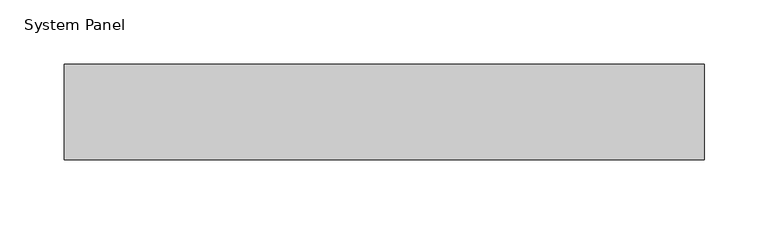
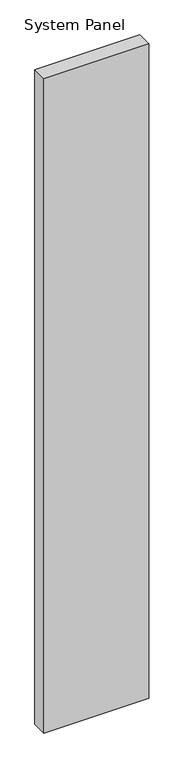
"""IFC4 building model written with IfcOpenShell, lengths in millimetres: plate geometry, System Panel : MetecnoPanel 75mm Vertical - Plain Astro - PIR."""

from ifc_helpers import new_model, si_unit, origin, origin_with_axes, place, context, project, spatial, polyline, outline, extrude, source, transform, mapped, element, save


def system_panel_dae39a37(model_context):
    return source(origin(), model_context, "Body", "SweptSolid", [
        extrude(outline(polyline([(250.0, 0.0), (-250.0, 0.0), (-250.0, 75.0), (250.0, 75.0), (250.0, 0.0)])), origin_with_axes(), (0.0, 0.0, 1.0), 3300.0),
    ])


if __name__ == "__main__":
    model = new_model("IFC4")
    model_context = context("Model", 3, world=origin())
    ifc_project = project(units=[si_unit("LENGTHUNIT", "METRE", prefix="MILLI")], contexts=[model_context])
    site = spatial("IfcSite", under=ifc_project)
    building = spatial("IfcBuilding", under=site)
    placement = place(None, origin())
    system_panel_shape = system_panel_dae39a37(model_context)
    element("IfcPlate", 1, ObjectType="System Panel : MetecnoPanel 75mm Vertical - Plain Astro - PIR", at=placement, inside=building, context=model_context, shape_type="MappedRepresentation", body=[
        mapped(system_panel_shape, transform((0.0, 0.0, 0.0), x_axis=(1.0, 0.0, 0.0), y_axis=(0.0, 1.0, 0.0), z_axis=(0.0, 0.0, 1.0))),
    ])
    save(model, "model.ifc")
